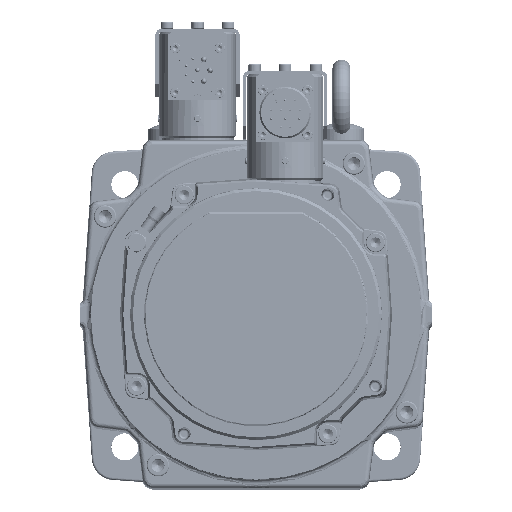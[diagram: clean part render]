
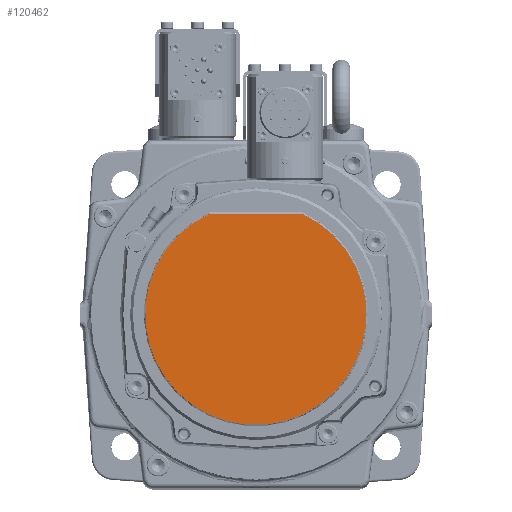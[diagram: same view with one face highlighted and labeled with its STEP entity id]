
A CAD part, top view. The second image highlights one B-rep face of the part: STEP entity #120462.
In plain terms, the highlighted planar face has unit normal (0, 0, 1).
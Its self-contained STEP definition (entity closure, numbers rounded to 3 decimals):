
#113034=CARTESIAN_POINT('',(0.,0.,63.9));
#113035=DIRECTION('',(0.,0.,-1.));
#113036=DIRECTION('',(0.418,0.908,0.));
#113037=AXIS2_PLACEMENT_3D('',#113034,#113035,#113036);
#113046=DIRECTION('',(-1.,0.,0.));
#113047=VECTOR('',#113046,41.125);
#113048=CARTESIAN_POINT('',(20.562,44.7,63.9));
#113049=LINE('',#113048,#113047);
#113710=CARTESIAN_POINT('',(20.562,44.7,63.9));
#113711=CARTESIAN_POINT('',(-20.562,44.7,63.9));
#113712=VERTEX_POINT('',#113710);
#113713=VERTEX_POINT('',#113711);
#120453=CARTESIAN_POINT('',(0.,0.,63.9));
#120454=DIRECTION('',(0.,0.,1.));
#120455=DIRECTION('',(1.,0.,0.));
#120456=AXIS2_PLACEMENT_3D('',#120453,#120454,#120455);
#120457=PLANE('',#120456);
#120458=ORIENTED_EDGE('',*,*,#120432,.T.);
#120459=ORIENTED_EDGE('',*,*,#120444,.F.);
#120460=EDGE_LOOP('',(#120458,#120459));
#120461=FACE_OUTER_BOUND('',#120460,.F.);
#120462=ADVANCED_FACE('',(#120461),#120457,.T.);
#113038=CIRCLE('',#113037,49.203);
#120432=EDGE_CURVE('',#113712,#113713,#113038,.T.);
#120444=EDGE_CURVE('',#113712,#113713,#113049,.T.);
